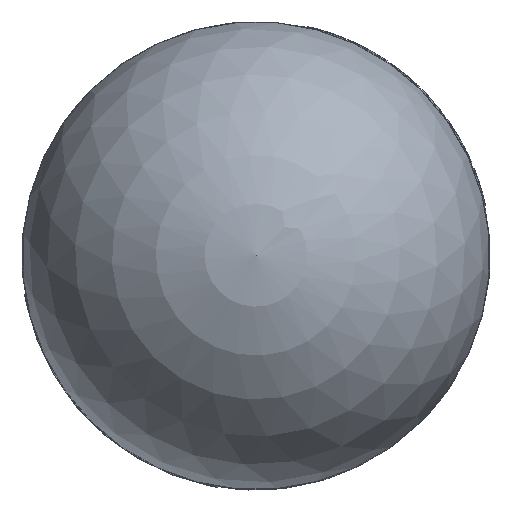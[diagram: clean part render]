
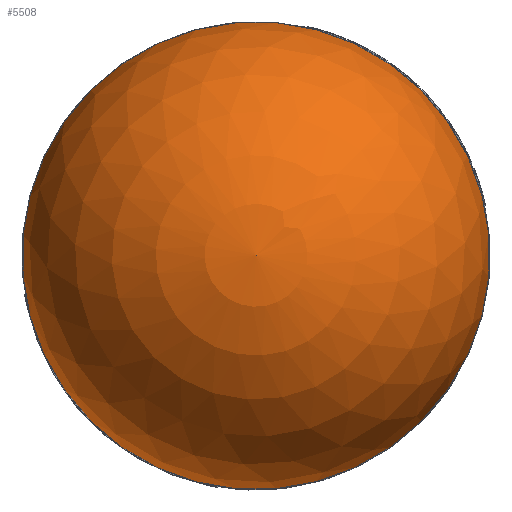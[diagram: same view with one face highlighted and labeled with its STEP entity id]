
A CAD part, top view. The second image highlights one B-rep face of the part: STEP entity #5508.
In plain terms, the highlighted spherical face has radius 27.45 mm.
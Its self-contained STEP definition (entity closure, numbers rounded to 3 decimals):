
#15=SPHERICAL_SURFACE('',#5877,27.45);
#520=FACE_OUTER_BOUND('',#825,.T.);
#825=EDGE_LOOP('',(#4521,#4522,#4523,#4524,#4525));
#1871=CIRCLE('',#5874,27.445);
#1872=CIRCLE('',#5875,27.445);
#1873=CIRCLE('',#5876,27.445);
#1874=CIRCLE('',#5878,27.45);
#2405=VERTEX_POINT('',#15900);
#2406=VERTEX_POINT('',#15902);
#2407=VERTEX_POINT('',#15904);
#2408=VERTEX_POINT('',#15908);
#3159=EDGE_CURVE('',#2405,#2406,#1871,.T.);
#3160=EDGE_CURVE('',#2406,#2407,#1872,.T.);
#3161=EDGE_CURVE('',#2407,#2405,#1873,.T.);
#3162=EDGE_CURVE('',#2408,#2406,#1874,.T.);
#4521=ORIENTED_EDGE('',*,*,#3161,.F.);
#4522=ORIENTED_EDGE('',*,*,#3160,.F.);
#4523=ORIENTED_EDGE('',*,*,#3162,.F.);
#4524=ORIENTED_EDGE('',*,*,#3162,.T.);
#4525=ORIENTED_EDGE('',*,*,#3159,.F.);
#5508=ADVANCED_FACE('',(#520),#15,.T.);
#5874=AXIS2_PLACEMENT_3D('',#15903,#6831,#6832);
#5875=AXIS2_PLACEMENT_3D('',#15905,#6833,#6834);
#5876=AXIS2_PLACEMENT_3D('',#15906,#6835,#6836);
#5877=AXIS2_PLACEMENT_3D('',#15907,#6837,#6838);
#5878=AXIS2_PLACEMENT_3D('',#15909,#6839,#6840);
#6831=DIRECTION('center_axis',(0.,0.,
-1.));
#6832=DIRECTION('ref_axis',(-0.707,-0.707,0.));
#6833=DIRECTION('center_axis',(0.,0.,
-1.));
#6834=DIRECTION('ref_axis',(-0.707,-0.707,0.));
#6835=DIRECTION('center_axis',(0.,0.,
-1.));
#6836=DIRECTION('ref_axis',(-0.707,-0.707,0.));
#6837=DIRECTION('center_axis',(0.,0.,
1.));
#6838=DIRECTION('ref_axis',(-0.707,-0.707,0.));
#6839=DIRECTION('center_axis',(-0.707,0.707,0.));
#6840=DIRECTION('ref_axis',(0.707,0.707,0.));
#15900=CARTESIAN_POINT('',(-19.407,19.407,2.999));
#15902=CARTESIAN_POINT('',(19.407,19.407,2.999));
#15903=CARTESIAN_POINT('Origin',(0.,0.,
2.999));
#15904=CARTESIAN_POINT('',(19.407,-19.407,2.999));
#15905=CARTESIAN_POINT('Origin',(0.,0.,
2.999));
#15906=CARTESIAN_POINT('Origin',(0.,0.,
2.999));
#15907=CARTESIAN_POINT('Origin',(0.,0.,
2.5));
#15908=CARTESIAN_POINT('',(0.,0.,29.95));
#15909=CARTESIAN_POINT('Origin',(0.,0.,
2.5));
